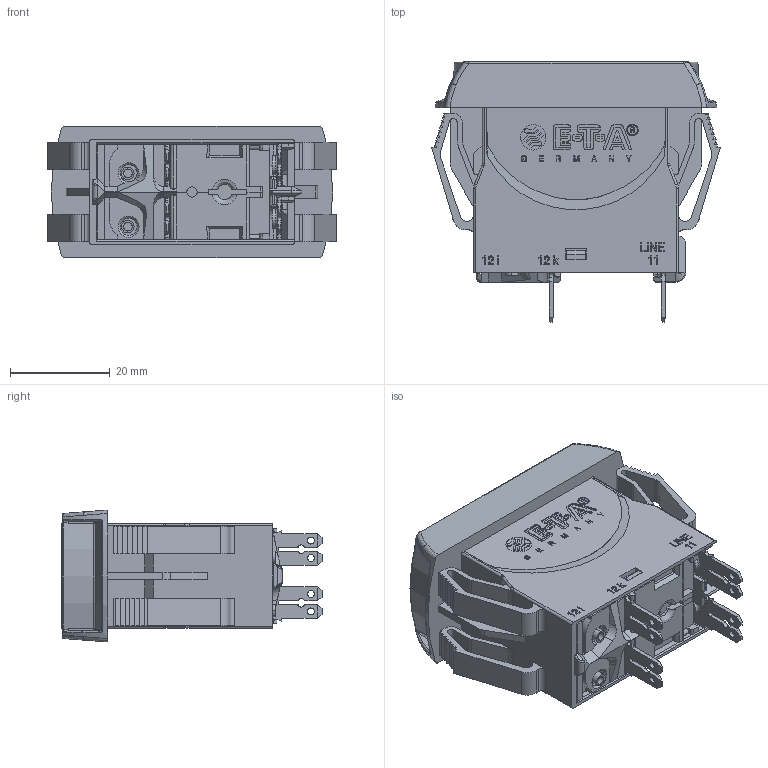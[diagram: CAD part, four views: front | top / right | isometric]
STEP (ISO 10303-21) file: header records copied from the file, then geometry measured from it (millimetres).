
FILE_DESCRIPTION((''),'2;1');
FILE_NAME('DUMMY-3120-N32F-P7','2019-08-07T11:21:50',('wschmidt'),(''),'CREO PARAMETRIC BY PTC INC, 2017260','CREO PARAMETRIC BY PTC INC, 2017260','');
FILE_SCHEMA(('AUTOMOTIVE_DESIGN { 1 0 10303 214 1 1 1 1 }'));
Products named in the file (1): DUMMY-3120-N32F-P7
Bounding box: 57.8 x 52.17 x 26.43 mm (x, y, z)
Volume: 33482.2 mm3; surface area: 23645.6 mm2
Topology: 1 solids, 1 shells, 2079 faces, 5620 edges, 3613 vertices
Faces by surface type: plane 1155, cylinder 372, extrusion 306, bspline 144, sphere 48, torus 36, cone 18
Entity records: 77614 total; most frequent: CARTESIAN_POINT 27199, ORIENTED_EDGE 11230, DIRECTION 8668, EDGE_CURVE 5615, VECTOR 4052, LINE 3746, VERTEX_POINT 3613, AXIS2_PLACEMENT_3D 2308
